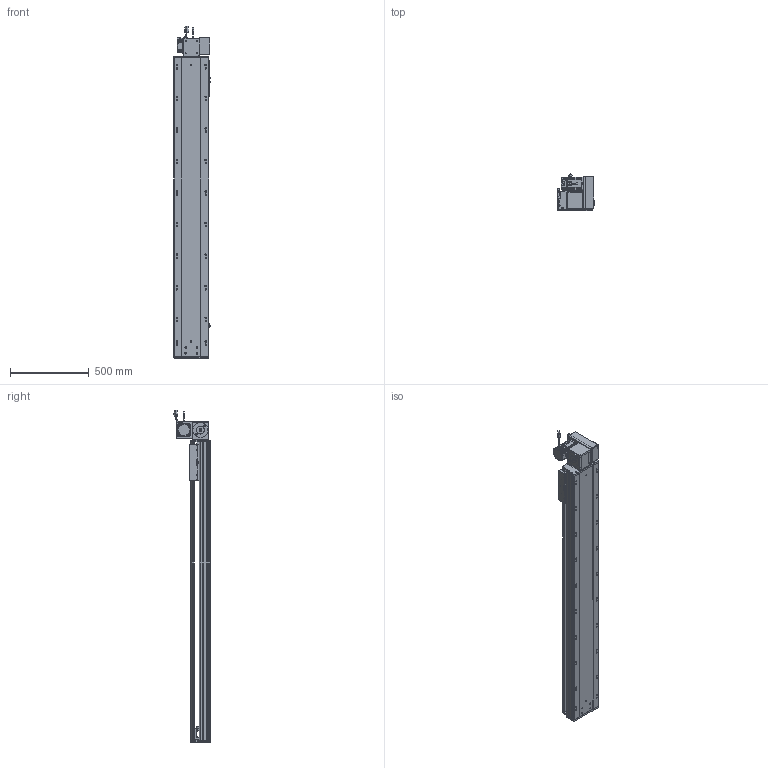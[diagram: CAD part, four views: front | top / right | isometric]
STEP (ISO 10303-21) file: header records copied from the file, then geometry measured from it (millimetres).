
FILE_DESCRIPTION (( 'STEP AP203' ), '1' );
FILE_NAME ('RY220-T-300-UR.SLDASM_1550.step', '2022-07-25T08:44:05', ( '' ), ( '' ), 'SwSTEP 2.0', 'SolidWorks 2016', '' );
FILE_SCHEMA (( 'CONFIG_CONTROL_DESIGN' ));
Length unit declared in the file: millimetre
Products named in the file (14): 怢湛750W_ECMA-CX0807ES; RY220-俋离672覜茼んえ; RY220翋肮祭謫釱; RY220-同步轮副支撑座6304×2; 滅袉蝶18-15; 110A-T-肮祭謫釱傷裔; RY220圉猾敕々湍臏賑輸; RY220-T-300-奻裔啣_1550; RY220-T-湍謫欶(鍼踢); RY220翋肮祭謫裔啣; 覜茼ん672; RY220-T-蛌殏萇儂假蚾啣(750W); RY220-T-300-UR.SLDASM_1550; RY220-T菁釱-300_1550
Assembly tree (18 placements, depth 2):
  RY220-T-300-UR.SLDASM_1550
    RY220-T菁釱-300_1550
    RY220翋肮祭謫釱
    覜茼ん672  x3
    RY220圉猾敕々湍臏賑輸
    RY220-T-300-奻裔啣_1550
    RY220-俋离672覜茼んえ
    滅袉蝶18-15  x3
    RY220翋肮祭謫裔啣  x2
    110A-T-肮祭謫釱傷裔
    怢湛750W_ECMA-CX0807ES
    RY220-T-湍謫欶(鍼踢)
    RY220-T-蛌殏萇儂假蚾啣(750W)
    RY220-同步轮副支撑座6304×2
Bounding box: 238.7 x 231.74 x 2103.27 mm (x, y, z)
Volume: 15819731.4 mm3; surface area: 4740508.7 mm2
Topology: 19 solids, 19 shells, 2738 faces, 7559 edges, 4776 vertices
Faces by surface type: cylinder 1302, plane 1069, cone 285, bspline 56, sphere 16, torus 10
Entity records: 91123 total; most frequent: CARTESIAN_POINT 25897, ORIENTED_EDGE 13530, DIRECTION 12872, EDGE_CURVE 6765, AXIS2_PLACEMENT_3D 4580, VERTEX_POINT 4400, VECTOR 3712, LINE 3712
